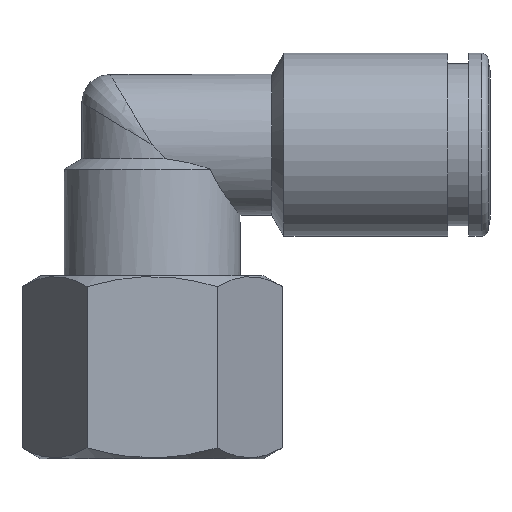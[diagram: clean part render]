
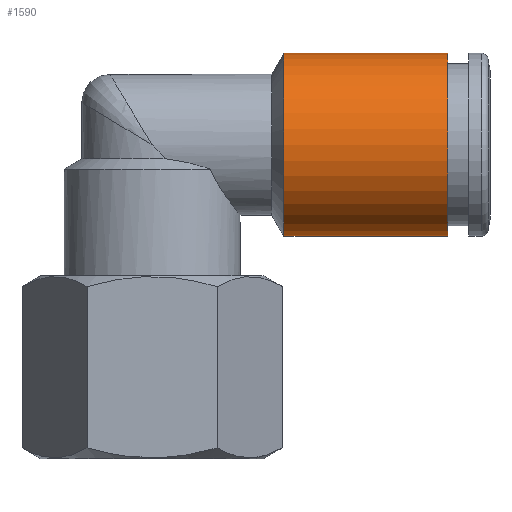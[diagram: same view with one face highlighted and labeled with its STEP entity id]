
A CAD part, front view. The second image highlights one B-rep face of the part: STEP entity #1590.
In plain terms, the highlighted cylindrical face has radius 6.5 mm (diameter 13 mm), a full revolution.
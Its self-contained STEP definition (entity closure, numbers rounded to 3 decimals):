
#1590=ADVANCED_FACE('', (#1600,#1610), #1620, .T.);
#4680=AXIS2_PLACEMENT_3D('Ax2Pl3d', #4690, #4700, #4710);
#5640=AXIS2_PLACEMENT_3D('Ax2Pl3d', #5650, #5660, #5670);
#5680=AXIS2_PLACEMENT_3D('Ax2Pl3d', #5690, #5700, #5710);
#4690=CARTESIAN_POINT('HicPkt', (31.688,0.,25.944));
#22680=CARTESIAN_POINT('', (31.688,0.,32.444));
#5650=CARTESIAN_POINT('HicPkt', (20.054,0.,25.944));
#22820=CARTESIAN_POINT('', (20.054,0.,32.444));
#5690=CARTESIAN_POINT('HicPkt', (20.054,0.,25.944));
#23430=CIRCLE('Circle', #4680, 6.5);
#23530=CIRCLE('Circle', #5640, 6.5);
#1620=CYLINDRICAL_SURFACE('Zyl', #5680, 6.5);
#4700=DIRECTION('Axis', (-1.,0.,0.))
;
#4710=DIRECTION('RefDirection', (0.,
0.,-1.));
#5660=DIRECTION('Axis', (-1.,0.,0.))
;
#5670=DIRECTION('RefDirection', (0.,
0.,-1.));
#5700=DIRECTION('Axis', (1.,0.,0.));
#5710=DIRECTION('RefDirection', (0.,0.,-1.));
#27020=EDGE_CURVE('', #27030, #27030, #23430, .T.);
#27400=EDGE_CURVE('', #27410, #27410, #23530, .T.);
#29830=EDGE_LOOP('Edge_loop', (#29840));
#29850=EDGE_LOOP('Edge_loop', (#29860));
#1610=FACE_BOUND('', #29850, .T.);
#1600=FACE_OUTER_BOUND('Face_outer_bound', #29830, .T.);
#29840=ORIENTED_EDGE('', *, *, #27020, .T.);
#29860=ORIENTED_EDGE('', *, *, #27400, .F.);
#27030=VERTEX_POINT('', #22680);
#27410=VERTEX_POINT('', #22820);
